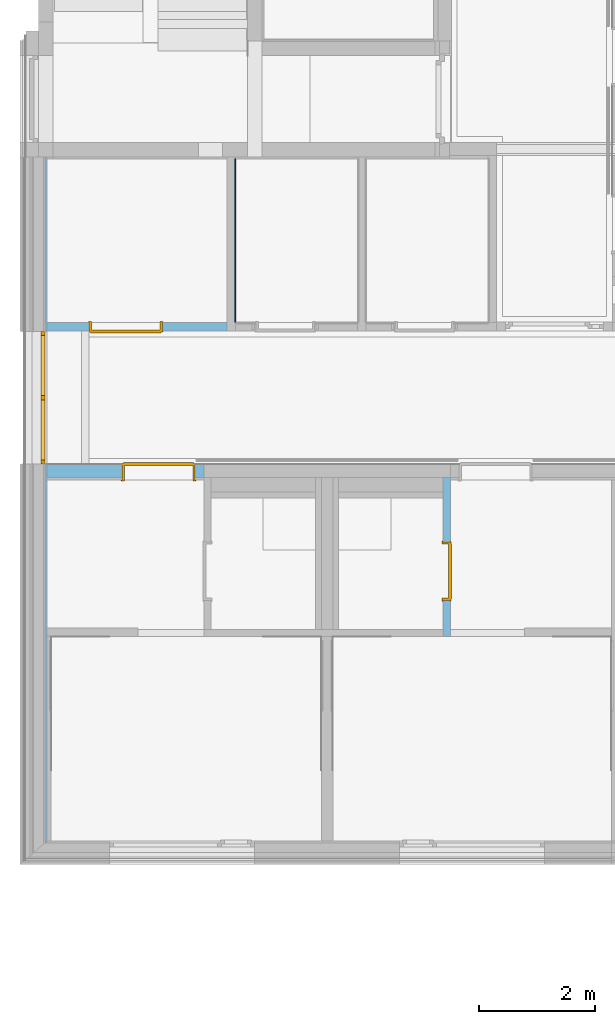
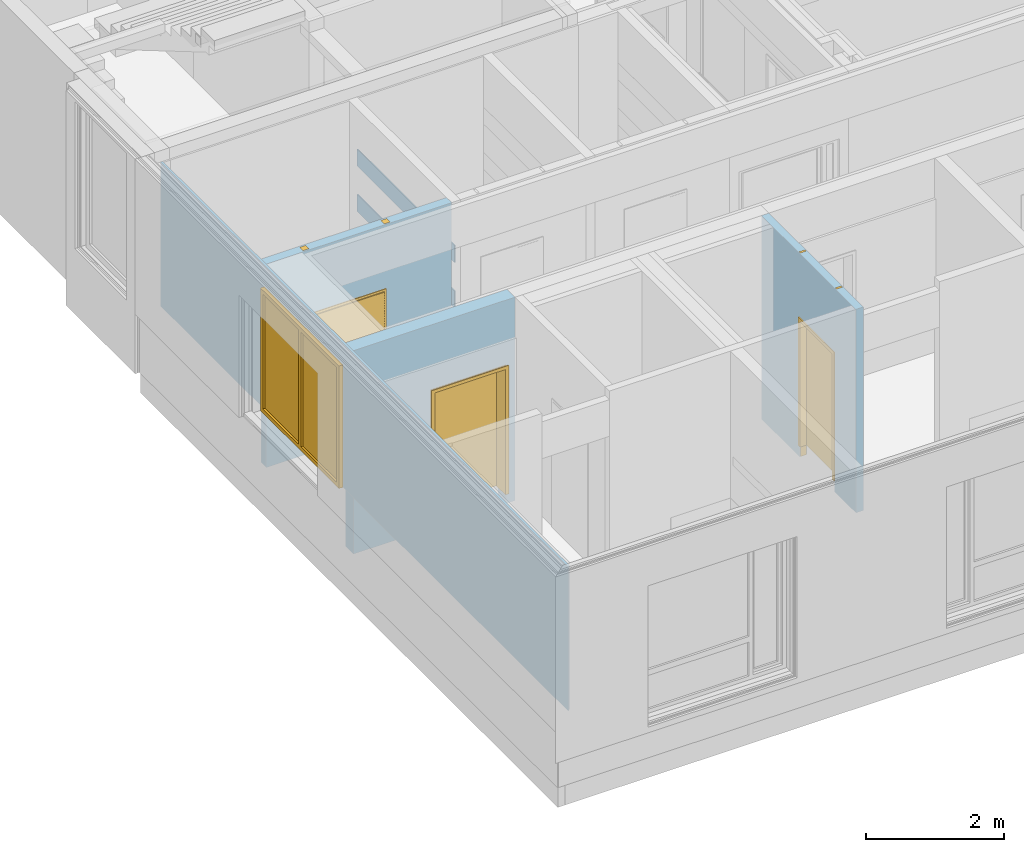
# One storey, part 68 of 207: 3 doors, 2 walls, 1 window, 4 openings, plus 4 elements that do not belong to this part.
"""IFC4 building model written with IfcOpenShell, lengths in metres."""

from ifc_helpers import new_model, entity, si_unit, converted_unit, derived_unit, frame, frame_2d, origin, origin_with_axes, place, context, subcontext, project, spatial, polyline, rectangle, outline, extrude, closed_shell, open_shell, faceted_brep, surface_model, source, transform, mapped, material, type_object, element, fill, save


model = new_model("IFC4")

# Units and contexts
model_context = context("Model", 3, precision=1e-05, world=origin())
body_context = subcontext(model_context, "Body", "Model", "MODEL_VIEW")
ifc_project = project(units=[si_unit("LENGTHUNIT", "METRE"), si_unit("AREAUNIT", "SQUARE_METRE"), si_unit("VOLUMEUNIT", "CUBIC_METRE"), si_unit("MASSUNIT", "GRAM", prefix="KILO"), converted_unit("PLANEANGLEUNIT", "DEGREE", entity("IfcPlaneAngleMeasure", 0.0174532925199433), si_unit("PLANEANGLEUNIT", "RADIAN"), dimensions=[0, 0, 0, 0, 0, 0, 0]), derived_unit("THERMALTRANSMITTANCEUNIT", [(si_unit("POWERUNIT", "WATT"), 1), (si_unit("THERMODYNAMICTEMPERATUREUNIT", "KELVIN"), -1), (si_unit("LENGTHUNIT", "METRE"), -2)]), derived_unit("VOLUMETRICFLOWRATEUNIT", [(si_unit("LENGTHUNIT", "METRE"), 3), (converted_unit("TIMEUNIT", "hour", entity("IfcTimeMeasure", 3600.0), si_unit("TIMEUNIT", "SECOND"), dimensions=[0, 0, 1, 0, 0, 0, 0]), -1), (si_unit("LENGTHUNIT", "METRE"), -1)])], contexts=[model_context])

# Site, building, storey
site_placement = place(None, origin())
site = spatial("IfcSite", under=ifc_project, at=site_placement, Name="Psychiatrie Neubau Wunstorf", CompositionType="ELEMENT")
building_placement = place(site_placement, origin())
building = spatial("IfcBuilding", under=site, at=building_placement, Name="Neubau H2 Stationsgebäude", CompositionType="ELEMENT")
storey_placement = place(building_placement, frame((0.0, 0.0, -0.2)))
storey = spatial("IfcBuildingStorey", under=building, at=storey_placement, Name="H2 Ebene 0", CompositionType="ELEMENT", Elevation=-0.2)

# Wall, opening, window
ifc_material_1 = material(Name="WA-LB")
wall_1_placement = place(storey_placement, frame((0.169999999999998, -2.16399999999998, 1.05), z_axis=(0.0, 0.0, 1.0), x_axis=(1.80815016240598e-16, 1.0, 0.0)))
wall_1 = element("IfcWall", 1, at=wall_1_placement, inside=storey, material=ifc_material_1, context=body_context, shape_type="SweptSolid", body=[
    extrude(outline(polyline([(0.0313246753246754, -0.0360000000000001), (11.8203245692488, -0.0360000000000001), (11.8203245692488, 0.0), (0.0, 0.0), (0.0313246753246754, -0.0360000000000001)])), frame((-0.0313246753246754, 0.0360000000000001, 0.0), z_axis=(0.0, 0.0, 1.0), x_axis=(1.0, 0.0, 0.0)), (0.0, 0.0, 1.0), 2.55),
])
opening_1_placement = place(wall_1_placement, frame((8.78187476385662, 0.0360000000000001, 0.0), z_axis=(0.0, -1.0, 0.0), x_axis=(0.0, 0.0, 1.0)))
opening_1 = element("IfcOpeningElement", 2, at=opening_1_placement, cuts=wall_1, Name="Fensteröffnung", ObjectType="Opening", context=body_context, shape_type="SweptSolid", body=[
    extrude(outline(polyline([(2.17, 2.28), (2.17, 0.0), (0.0, 0.0), (0.0, 2.28), (2.17, 2.28)])), origin_with_axes(), (0.0, 0.0, 1.0), 0.0360000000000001),
])
shared_shape_1 = source(origin_with_axes(), body_context, "Body", "SurfaceModel", [
    surface_model("IfcShellBasedSurfaceModel", [(0.0, 0.0, 2.17), (0.0699999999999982, 0.0, 2.17), (0.0699999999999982, 0.0, 0.0), (0.0, 0.0, 0.0), (0.0, 0.0699999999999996, 0.0), (0.0699999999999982, 0.0699999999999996, 0.0), (0.0699999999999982, 0.0699999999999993, 2.17), (0.0, 0.0699999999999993, 2.17)], [closed_shell([[[0, 1, 2, 3]], [[4, 5, 6, 7]], [[3, 4, 7, 0]], [[2, 5, 4, 3]], [[1, 6, 5, 2]], [[0, 7, 6, 1]]], orient=[[False], [False], [False], [False], [False], [False]])]),
    surface_model("IfcShellBasedSurfaceModel", [(2.21, 0.0, 2.17), (2.28, 0.0, 2.17), (2.28, 0.0, 0.0), (2.21, 0.0, 0.0), (2.21, 0.0700000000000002, 0.0), (2.28, 0.0700000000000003, 0.0), (2.28, 0.07, 2.17), (2.21, 0.07, 2.17)], [closed_shell([[[0, 1, 2, 3]], [[4, 5, 6, 7]], [[3, 4, 7, 0]], [[2, 5, 4, 3]], [[1, 6, 5, 2]], [[0, 7, 6, 1]]], orient=[[False], [False], [False], [False], [False], [False]])]),
    surface_model("IfcShellBasedSurfaceModel", [(0.0699999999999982, 0.0, 0.07), (2.21, 0.0, 0.07), (2.21, 0.0, 0.0), (0.0699999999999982, 0.0, 0.0), (0.0699999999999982, 0.0699999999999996, 0.0), (2.21, 0.0700000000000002, 0.0), (2.21, 0.0700000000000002, 0.07), (0.0699999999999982, 0.0699999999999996, 0.07)], [closed_shell([[[0, 1, 2, 3]], [[4, 5, 6, 7]], [[3, 4, 7, 0]], [[2, 5, 4, 3]], [[1, 6, 5, 2]], [[0, 7, 6, 1]]], orient=[[False], [False], [False], [False], [False], [False]])]),
    surface_model("IfcShellBasedSurfaceModel", [(0.0699999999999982, 0.0, 2.17), (2.21, 0.0, 2.17), (2.21, 0.0, 2.1), (0.0699999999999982, 0.0, 2.1), (0.0699999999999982, 0.0699999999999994, 2.1), (2.21, 0.07, 2.1), (2.21, 0.07, 2.17), (0.0699999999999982, 0.0699999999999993, 2.17)], [closed_shell([[[0, 1, 2, 3]], [[4, 5, 6, 7]], [[3, 4, 7, 0]], [[2, 5, 4, 3]], [[1, 6, 5, 2]], [[0, 7, 6, 1]]], orient=[[False], [False], [False], [False], [False], [False]])]),
    surface_model("IfcShellBasedSurfaceModel", [(1.105, 0.0, 2.1), (1.175, 0.0, 2.1), (1.175, 0.0, 0.07), (1.105, 0.0, 0.07), (1.105, 0.0699999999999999, 0.07), (1.175, 0.0699999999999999, 0.07), (1.175, 0.0699999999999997, 2.1), (1.105, 0.0699999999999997, 2.1)], [closed_shell([[[0, 1, 2, 3]], [[4, 5, 6, 7]], [[3, 4, 7, 0]], [[2, 5, 4, 3]], [[1, 6, 5, 2]], [[0, 7, 6, 1]]], orient=[[False], [False], [False], [False], [False], [False]])]),
    surface_model("IfcShellBasedSurfaceModel", [(0.0699999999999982, 0.0349999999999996, 0.07), (0.0699999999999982, 0.0349999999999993, 2.1), (1.105, 0.0349999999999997, 2.1), (1.105, 0.0349999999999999, 0.07)], [open_shell([[[0, 1, 2, 3]]], orient=[[False]])]),
    surface_model("IfcShellBasedSurfaceModel", [(1.175, 0.0349999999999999, 0.07), (1.175, 0.0349999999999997, 2.1), (2.21, 0.035, 2.1), (2.21, 0.0350000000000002, 0.07)], [open_shell([[[0, 1, 2, 3]]], orient=[[False]])]),
])
window_placement = place(opening_1_placement, frame((0.0, 2.28, 0.00400000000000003), z_axis=(1.0, 0.0, 0.0), x_axis=(0.0, -1.0, -6.29574780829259e-18)))
window = element("IfcWindow", 3, at=window_placement, inside=storey, Name="Fenster", OverallHeight=2.17, OverallWidth=2.28, PartitioningType="USERDEFINED", PredefinedType="WINDOW", context=body_context, shape_type="MappedRepresentation", body=[
    mapped(shared_shape_1, transform((0.0, 0.0, 0.0), x_axis=(1.0, 0.0, 0.0), y_axis=(0.0, 1.0, 0.0), z_axis=(0.0, 0.0, 1.0), scale=1.0)),
])
fill(opening_1, window)

# Walls
wall_2_placement = place(storey_placement, frame((3.407, 6.77500025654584, 1.6)))
element("IfcWall", 4, at=wall_2_placement, inside=storey, Name="WV 1.1", context=body_context, shape_type="Brep", body=[
    faceted_brep([(0.0, 0.0, 0.0), (0.018, 0.0, 0.0), (0.0180000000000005, 2.82, 0.0), (0.0, 2.82, 0.0), (0.018, 0.0, 0.3), (0.0, 0.0, 0.3), (0.0, 2.82, 0.3), (0.0180000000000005, 2.82, 0.3)], [[[0, 1, 2, 3]], [[4, 5, 6, 7]], [[1, 0, 5, 4]], [[2, 1, 4, 7]], [[3, 2, 7, 6]], [[0, 3, 6, 5]]], orient=[[False], [False], [False], [False], [False], [False]]),
])
wall_3_placement = place(storey_placement, frame((3.407, 6.77500025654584, 2.4)))
element("IfcWall", 5, at=wall_3_placement, inside=storey, Name="WV 1.1", context=body_context, shape_type="Brep", body=[
    faceted_brep([(0.0, 0.0, 0.0), (0.0179999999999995, 0.0, 0.0), (0.018, 2.82, 0.0), (0.0, 2.82, 0.0), (0.0179999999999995, 0.0, 0.3), (0.0, 0.0, 0.3), (0.0, 2.82, 0.3), (0.018, 2.82, 0.3)], [[[0, 1, 2, 3]], [[4, 5, 6, 7]], [[1, 0, 5, 4]], [[2, 1, 4, 7]], [[3, 2, 7, 6]], [[0, 3, 6, 5]]], orient=[[False], [False], [False], [False], [False], [False]]),
])

# Wall, opening, door
ifc_material_2 = material(Name="WI-LB")
wall_4_placement = place(storey_placement, frame((3.275, 6.77499989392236, 0.0), z_axis=(0.0, 0.0, 1.0), x_axis=(-1.0, 0.0, 0.0)))
wall_4 = element("IfcWall", 6, at=wall_4_placement, inside=storey, material=ifc_material_2, context=body_context, shape_type="SweptSolid", body=[
    extrude(rectangle(XDim=3.106, YDim=0.15, at=frame_2d((1.553, 0.075), x_axis=(1.0, 0.0))), origin_with_axes(), (0.0, 0.0, 1.0), 3.6),
])
opening_2_placement = place(wall_4_placement, frame((1.115, 0.0, 0.0), z_axis=(0.0, 1.0, 0.0), x_axis=(0.0, 0.0, 1.0)))
opening_2 = element("IfcOpeningElement", 7, at=opening_2_placement, cuts=wall_4, Name="Türöffnung", ObjectType="Opening", context=body_context, shape_type="SweptSolid", body=[
    extrude(outline(polyline([(2.46, 1.26), (2.46, 0.0), (0.0, 0.0), (0.0, 1.26), (2.46, 1.26)])), origin_with_axes(), (0.0, 0.0, 1.0), 0.15),
])
ifc_material_3 = material(Name="TI-2F-UZ-D")
door_type_1 = type_object("IfcDoorType", Name="SMT", OperationType="DOUBLE_DOOR_SINGLE_SWING", ParameterTakesPrecedence=False, PredefinedType="DOOR")
shared_shape_2 = source(origin_with_axes(), body_context, "Body", "Brep", [
    faceted_brep([(1.36, 0.025, 0.0), (1.36, 0.125, 0.0), (1.26, 0.125, 0.0), (1.26, 0.025, 0.0), (1.36, 0.125, 3.6), (1.36, 0.025, 3.6), (1.26, 0.025, 3.6), (1.26, 0.125, 3.6)], [[[0, 1, 2, 3]], [[4, 5, 6, 7]], [[1, 0, 5, 4]], [[2, 1, 4, 7]], [[3, 2, 7, 6]], [[0, 3, 6, 5]]], orient=[[False], [False], [False], [False], [False], [False]]),
    faceted_brep([(0.0, 0.025, 0.0), (0.0, 0.125, 0.0), (-0.1, 0.125, 0.0), (-0.1, 0.025, 0.0), (0.0, 0.125, 3.6), (0.0, 0.025, 3.6), (-0.1, 0.025, 3.6), (-0.1, 0.125, 3.6)], [[[0, 1, 2, 3]], [[4, 5, 6, 7]], [[1, 0, 5, 4]], [[2, 1, 4, 7]], [[3, 2, 7, 6]], [[0, 3, 6, 5]]], orient=[[False], [False], [False], [False], [False], [False]]),
    faceted_brep([(1.26, 0.025, 2.46), (1.26, 0.125, 2.46), (0.0, 0.125, 2.46), (0.0, 0.025, 2.46), (1.26, 0.125, 2.56), (1.26, 0.025, 2.56), (0.0, 0.025, 2.56), (0.0, 0.125, 2.56)], [[[0, 1, 2, 3]], [[4, 5, 6, 7]], [[1, 0, 5, 4]], [[2, 1, 4, 7]], [[3, 2, 7, 6]], [[0, 3, 6, 5]]], orient=[[False], [False], [False], [False], [False], [False]]),
])
shared_shape_3 = source(origin_with_axes(), body_context, "Body", "Brep", [
    faceted_brep([(1.26, -0.015, 2.46), (1.26, -0.015, 0.2), (1.22, -0.015, 0.2), (1.22, -0.015, 2.46), (1.26, 0.165, 0.2), (1.26, 0.165, 2.46), (1.22, 0.165, 2.46), (1.22, 0.165, 0.2)], [[[0, 1, 2, 3]], [[4, 5, 6, 7]], [[1, 0, 5, 4]], [[2, 1, 4, 7]], [[3, 2, 7, 6]], [[0, 3, 6, 5]]], orient=[[False], [False], [False], [False], [False], [False]]),
    faceted_brep([(1.26, -0.015, 2.475), (1.275, -0.015, 2.475), (1.275, -0.015, 0.2), (1.26, -0.015, 0.2), (1.26, 0.0, 0.2), (1.275, 0.0, 0.2), (1.275, 0.0, 2.475), (1.26, 0.0, 2.475)], [[[0, 1, 2, 3]], [[4, 5, 6, 7]], [[3, 4, 7, 0]], [[2, 5, 4, 3]], [[1, 6, 5, 2]], [[0, 7, 6, 1]]], orient=[[False], [False], [False], [False], [False], [False]]),
    faceted_brep([(1.26, 0.15, 2.475), (1.275, 0.15, 2.475), (1.275, 0.15, 0.2), (1.26, 0.15, 0.2), (1.26, 0.165, 0.2), (1.275, 0.165, 0.2), (1.275, 0.165, 2.475), (1.26, 0.165, 2.475)], [[[0, 1, 2, 3]], [[4, 5, 6, 7]], [[3, 4, 7, 0]], [[2, 5, 4, 3]], [[1, 6, 5, 2]], [[0, 7, 6, 1]]], orient=[[False], [False], [False], [False], [False], [False]]),
    faceted_brep([(0.04, -0.015, 2.46), (0.04, -0.015, 0.2), (0.0, -0.015, 0.2), (0.0, -0.015, 2.46), (0.04, 0.165, 0.2), (0.04, 0.165, 2.46), (0.0, 0.165, 2.46), (0.0, 0.165, 0.2)], [[[0, 1, 2, 3]], [[4, 5, 6, 7]], [[1, 0, 5, 4]], [[2, 1, 4, 7]], [[3, 2, 7, 6]], [[0, 3, 6, 5]]], orient=[[False], [False], [False], [False], [False], [False]]),
    faceted_brep([(0.0, -0.015, 2.475), (0.0, -0.015, 0.2), (-0.015, -0.015, 0.2), (-0.015, -0.015, 2.475), (0.0, 0.0, 0.2), (0.0, 0.0, 2.475), (-0.015, 0.0, 2.475), (-0.015, 0.0, 0.2)], [[[0, 1, 2, 3]], [[4, 5, 6, 7]], [[1, 0, 5, 4]], [[2, 1, 4, 7]], [[3, 2, 7, 6]], [[0, 3, 6, 5]]], orient=[[False], [False], [False], [False], [False], [False]]),
    faceted_brep([(0.0, 0.15, 2.475), (0.0, 0.15, 0.2), (-0.015, 0.15, 0.2), (-0.015, 0.15, 2.475), (0.0, 0.165, 0.2), (0.0, 0.165, 2.475), (-0.015, 0.165, 2.475), (-0.015, 0.165, 0.2)], [[[0, 1, 2, 3]], [[4, 5, 6, 7]], [[1, 0, 5, 4]], [[2, 1, 4, 7]], [[3, 2, 7, 6]], [[0, 3, 6, 5]]], orient=[[False], [False], [False], [False], [False], [False]]),
    faceted_brep([(1.22, -0.015, 2.46), (1.22, -0.015, 2.42), (0.04, -0.015, 2.42), (0.04, -0.015, 2.46), (1.22, 0.165, 2.42), (1.22, 0.165, 2.46), (0.04, 0.165, 2.46), (0.04, 0.165, 2.42)], [[[0, 1, 2, 3]], [[4, 5, 6, 7]], [[1, 0, 5, 4]], [[2, 1, 4, 7]], [[3, 2, 7, 6]], [[0, 3, 6, 5]]], orient=[[False], [False], [False], [False], [False], [False]]),
    faceted_brep([(1.26, -0.015, 2.475), (1.26, -0.015, 2.46), (0.0, -0.015, 2.46), (0.0, -0.015, 2.475), (1.26, 0.0, 2.46), (1.26, 0.0, 2.475), (0.0, 0.0, 2.475), (0.0, 0.0, 2.46)], [[[0, 1, 2, 3]], [[4, 5, 6, 7]], [[1, 0, 5, 4]], [[2, 1, 4, 7]], [[3, 2, 7, 6]], [[0, 3, 6, 5]]], orient=[[False], [False], [False], [False], [False], [False]]),
    faceted_brep([(1.26, 0.15, 2.475), (1.26, 0.15, 2.46), (0.0, 0.15, 2.46), (0.0, 0.15, 2.475), (1.26, 0.165, 2.46), (1.26, 0.165, 2.475), (0.0, 0.165, 2.475), (0.0, 0.165, 2.46)], [[[0, 1, 2, 3]], [[4, 5, 6, 7]], [[1, 0, 5, 4]], [[2, 1, 4, 7]], [[3, 2, 7, 6]], [[0, 3, 6, 5]]], orient=[[False], [False], [False], [False], [False], [False]]),
    faceted_brep([(1.235, 0.13, 2.435), (1.235, 0.13, 0.2), (0.335, 0.13, 0.2), (0.335, 0.13, 2.435), (1.235, 0.18, 0.2), (1.235, 0.18, 2.435), (0.335, 0.18, 2.435), (0.335, 0.18, 0.2)], [[[0, 1, 2, 3]], [[4, 5, 6, 7]], [[1, 0, 5, 4]], [[2, 1, 4, 7]], [[3, 2, 7, 6]], [[0, 3, 6, 5]]], orient=[[False], [False], [False], [False], [False], [False]]),
    faceted_brep([(0.334, 0.13, 2.435), (0.334, 0.13, 0.2), (0.025, 0.13, 0.2), (0.025, 0.13, 2.435), (0.334, 0.18, 0.2), (0.334, 0.18, 2.435), (0.025, 0.18, 2.435), (0.025, 0.18, 0.2)], [[[0, 1, 2, 3]], [[4, 5, 6, 7]], [[1, 0, 5, 4]], [[2, 1, 4, 7]], [[3, 2, 7, 6]], [[0, 3, 6, 5]]], orient=[[False], [False], [False], [False], [False], [False]]),
])
door_1_placement = place(opening_2_placement, frame((0.0, 0.0, 0.0), z_axis=(1.0, 0.0, 0.0), x_axis=(0.0, 1.0, 0.0)))
door_1 = element("IfcDoor", 8, at=door_1_placement, inside=storey, type_object=door_type_1, material=ifc_material_3, Name="SMT", OverallHeight=2.46, OverallWidth=1.26, context=body_context, shape_type="MappedRepresentation", body=[
    mapped(shared_shape_2, transform((0.0, 0.0, 0.0), x_axis=(1.0, 0.0, 0.0), y_axis=(0.0, 1.0, 0.0), z_axis=(0.0, 0.0, 1.0), scale=1.0)),
    mapped(shared_shape_3, transform((0.0, 0.0, 0.0), x_axis=(1.0, 0.0, 0.0), y_axis=(0.0, 1.0, 0.0), z_axis=(0.0, 0.0, 1.0), scale=1.0)),
])
fill(opening_2, door_1)

ifc_material_4 = material(Name="WI-HW 60")
wall_5_placement = place(storey_placement, frame((2.875, 4.33074963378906, 0.0), z_axis=(0.0, 0.0, 1.0), x_axis=(-1.0, 0.0, 0.0)))
wall_5 = element("IfcWall", 9, at=wall_5_placement, inside=storey, material=ifc_material_4, context=body_context, shape_type="SweptSolid", body=[
    extrude(rectangle(XDim=2.706, YDim=0.232000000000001, at=frame_2d((1.353, 0.116), x_axis=(1.0, 0.0))), origin_with_axes(), (0.0, 0.0, 1.0), 3.6),
])
opening_3_placement = place(wall_5_placement, frame((0.150000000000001, 0.0, 0.0), z_axis=(0.0, 1.0, 0.0), x_axis=(0.0, 0.0, 1.0)))
opening_3 = element("IfcOpeningElement", 10, at=opening_3_placement, cuts=wall_5, Name="Türöffnung", ObjectType="Opening", context=body_context, shape_type="SweptSolid", body=[
    extrude(outline(polyline([(2.46, 1.26), (2.46, 0.0), (0.0, 0.0), (0.0, 1.26), (2.46, 1.26)])), origin_with_axes(), (0.0, 0.0, 1.0), 0.232000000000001),
])
ifc_material_5 = material(Name="TI-2F-UZ-D")
door_type_2 = type_object("IfcDoorType", Name="SMT", OperationType="DOUBLE_DOOR_SINGLE_SWING", ParameterTakesPrecedence=False, PredefinedType="DOOR")
shared_shape_4 = source(origin_with_axes(), body_context, "Body", "Brep", [
    faceted_brep([(0.0, -0.0150000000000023, 2.46), (0.04, -0.0150000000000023, 2.46), (0.04, -0.0150000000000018, 0.2), (0.0, -0.0150000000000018, 0.2), (0.0, 0.286499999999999, 0.2), (0.04, 0.286499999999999, 0.2), (0.04, 0.286499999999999, 2.46), (0.0, 0.286499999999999, 2.46)], [[[0, 1, 2, 3]], [[4, 5, 6, 7]], [[3, 4, 7, 0]], [[2, 5, 4, 3]], [[1, 6, 5, 2]], [[0, 7, 6, 1]]], orient=[[False], [False], [False], [False], [False], [False]]),
    faceted_brep([(0.0, -0.0150000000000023, 2.475), (0.0, -0.0150000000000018, 0.2), (-0.015, -0.0150000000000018, 0.2), (-0.015, -0.0150000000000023, 2.475), (0.0, 0.0, 0.2), (0.0, 0.0, 2.475), (-0.015, 0.0, 2.475), (-0.015, 0.0, 0.2)], [[[0, 1, 2, 3]], [[4, 5, 6, 7]], [[1, 0, 5, 4]], [[2, 1, 4, 7]], [[3, 2, 7, 6]], [[0, 3, 6, 5]]], orient=[[False], [False], [False], [False], [False], [False]]),
    faceted_brep([(0.0, 0.271499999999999, 2.475), (0.0, 0.271499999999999, 0.2), (-0.015, 0.271499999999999, 0.2), (-0.015, 0.271499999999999, 2.475), (0.0, 0.286499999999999, 0.2), (0.0, 0.286499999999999, 2.475), (-0.015, 0.286499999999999, 2.475), (-0.015, 0.286499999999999, 0.2)], [[[0, 1, 2, 3]], [[4, 5, 6, 7]], [[1, 0, 5, 4]], [[2, 1, 4, 7]], [[3, 2, 7, 6]], [[0, 3, 6, 5]]], orient=[[False], [False], [False], [False], [False], [False]]),
    faceted_brep([(1.22, -0.0150000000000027, 2.46), (1.26, -0.0150000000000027, 2.46), (1.26, -0.0150000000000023, 0.2), (1.22, -0.0150000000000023, 0.2), (1.22, 0.286499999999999, 0.2), (1.26, 0.286499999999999, 0.2), (1.26, 0.286499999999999, 2.46), (1.22, 0.286499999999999, 2.46)], [[[0, 1, 2, 3]], [[4, 5, 6, 7]], [[3, 4, 7, 0]], [[2, 5, 4, 3]], [[1, 6, 5, 2]], [[0, 7, 6, 1]]], orient=[[False], [False], [False], [False], [False], [False]]),
    faceted_brep([(1.26, -0.0150000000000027, 2.475), (1.275, -0.0150000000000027, 2.475), (1.275, -0.0150000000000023, 0.2), (1.26, -0.0150000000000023, 0.2), (1.26, 0.0, 0.2), (1.275, 0.0, 0.2), (1.275, 0.0, 2.475), (1.26, 0.0, 2.475)], [[[0, 1, 2, 3]], [[4, 5, 6, 7]], [[3, 4, 7, 0]], [[2, 5, 4, 3]], [[1, 6, 5, 2]], [[0, 7, 6, 1]]], orient=[[False], [False], [False], [False], [False], [False]]),
    faceted_brep([(1.26, 0.271499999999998, 2.475), (1.275, 0.271499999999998, 2.475), (1.275, 0.271499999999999, 0.2), (1.26, 0.271499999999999, 0.2), (1.26, 0.286499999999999, 0.2), (1.275, 0.286499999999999, 0.2), (1.275, 0.286499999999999, 2.475), (1.26, 0.286499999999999, 2.475)], [[[0, 1, 2, 3]], [[4, 5, 6, 7]], [[3, 4, 7, 0]], [[2, 5, 4, 3]], [[1, 6, 5, 2]], [[0, 7, 6, 1]]], orient=[[False], [False], [False], [False], [False], [False]]),
    faceted_brep([(0.04, -0.0150000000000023, 2.46), (1.22, -0.0150000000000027, 2.46), (1.22, -0.0150000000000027, 2.42), (0.04, -0.0150000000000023, 2.42), (0.04, 0.286499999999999, 2.42), (1.22, 0.286499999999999, 2.42), (1.22, 0.286499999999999, 2.46), (0.04, 0.286499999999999, 2.46)], [[[0, 1, 2, 3]], [[4, 5, 6, 7]], [[3, 4, 7, 0]], [[2, 5, 4, 3]], [[1, 6, 5, 2]], [[0, 7, 6, 1]]], orient=[[False], [False], [False], [False], [False], [False]]),
    faceted_brep([(0.0, -0.0150000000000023, 2.475), (1.26, -0.0150000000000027, 2.475), (1.26, -0.0150000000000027, 2.46), (0.0, -0.0150000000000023, 2.46), (0.0, 0.0, 2.46), (1.26, 0.0, 2.46), (1.26, 0.0, 2.475), (0.0, 0.0, 2.475)], [[[0, 1, 2, 3]], [[4, 5, 6, 7]], [[3, 4, 7, 0]], [[2, 5, 4, 3]], [[1, 6, 5, 2]], [[0, 7, 6, 1]]], orient=[[False], [False], [False], [False], [False], [False]]),
    faceted_brep([(0.0, 0.271499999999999, 2.475), (1.26, 0.271499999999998, 2.475), (1.26, 0.271499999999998, 2.46), (0.0, 0.271499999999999, 2.46), (0.0, 0.286499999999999, 2.46), (1.26, 0.286499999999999, 2.46), (1.26, 0.286499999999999, 2.475), (0.0, 0.286499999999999, 2.475)], [[[0, 1, 2, 3]], [[4, 5, 6, 7]], [[3, 4, 7, 0]], [[2, 5, 4, 3]], [[1, 6, 5, 2]], [[0, 7, 6, 1]]], orient=[[False], [False], [False], [False], [False], [False]]),
    faceted_brep([(0.025, 0.251499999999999, 2.435), (0.925, 0.251499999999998, 2.435), (0.925, 0.251499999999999, 0.2), (0.025, 0.251499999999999, 0.2), (0.025, 0.301499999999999, 0.2), (0.925, 0.301499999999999, 0.2), (0.925, 0.301499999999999, 2.435), (0.025, 0.301499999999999, 2.435)], [[[0, 1, 2, 3]], [[4, 5, 6, 7]], [[3, 4, 7, 0]], [[2, 5, 4, 3]], [[1, 6, 5, 2]], [[0, 7, 6, 1]]], orient=[[False], [False], [False], [False], [False], [False]]),
    faceted_brep([(0.926, 0.251499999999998, 2.435), (1.235, 0.251499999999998, 2.435), (1.235, 0.251499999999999, 0.2), (0.926, 0.251499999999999, 0.2), (0.926, 0.301499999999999, 0.2), (1.235, 0.301499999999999, 0.2), (1.235, 0.301499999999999, 2.435), (0.926, 0.301499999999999, 2.435)], [[[0, 1, 2, 3]], [[4, 5, 6, 7]], [[3, 4, 7, 0]], [[2, 5, 4, 3]], [[1, 6, 5, 2]], [[0, 7, 6, 1]]], orient=[[False], [False], [False], [False], [False], [False]]),
])
door_2_placement = place(opening_3_placement, frame((0.0, 1.26, 0.271499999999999), z_axis=(1.0, 0.0, 0.0), x_axis=(0.0, -1.0, 0.0)))
door_2 = element("IfcDoor", 11, at=door_2_placement, inside=storey, type_object=door_type_2, material=ifc_material_5, Name="SMT", OverallHeight=2.46, OverallWidth=1.26, context=body_context, shape_type="MappedRepresentation", body=[
    mapped(shared_shape_4, transform((0.0, 0.0, 0.0), x_axis=(1.0, 0.0, 0.0), y_axis=(0.0, 1.0, 0.0), z_axis=(0.0, 0.0, 1.0), scale=1.0)),
])
fill(opening_3, door_2)

ifc_material_6 = material(Name="WI-LB")
wall_6_placement = place(storey_placement, frame((7.0, 4.09874963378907, 0.0), z_axis=(0.0, 0.0, 1.0), x_axis=(0.0, -1.0, 0.0)))
wall_6 = element("IfcWall", 12, at=wall_6_placement, inside=storey, material=ifc_material_6, context=body_context, shape_type="SweptSolid", body=[
    extrude(rectangle(XDim=2.74, YDim=0.125, at=frame_2d((1.37, 0.0625), x_axis=(1.0, 0.0))), origin_with_axes(), (0.0, 0.0, 1.0), 3.6),
])
opening_4_placement = place(wall_6_placement, frame((1.105, 0.0, 0.0), z_axis=(0.0, 1.0, 0.0), x_axis=(0.0, 0.0, 1.0)))
opening_4 = element("IfcOpeningElement", 13, at=opening_4_placement, cuts=wall_6, Name="Türöffnung", ObjectType="Opening", context=body_context, shape_type="SweptSolid", body=[
    extrude(outline(polyline([(2.46, 1.01), (2.46, 0.0), (0.0, 0.0), (0.0, 1.01), (2.46, 1.01)])), origin_with_axes(), (0.0, 0.0, 1.0), 0.125),
])
ifc_material_7 = material(Name="TI-1F-UZ-D-N")
door_type_3 = type_object("IfcDoorType", Name="SMT", OperationType="SINGLE_SWING_RIGHT", ParameterTakesPrecedence=False, PredefinedType="DOOR")
shared_shape_5 = source(origin_with_axes(), body_context, "Body", "Brep", [
    faceted_brep([(1.05, 0.0124999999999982, 0.0), (1.05, 0.112499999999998, 0.0), (1.01, 0.112499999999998, 0.0), (1.01, 0.0124999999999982, 0.0), (1.05, 0.112499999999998, 3.6), (1.05, 0.0124999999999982, 3.6), (1.01, 0.0124999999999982, 3.6), (1.01, 0.112499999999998, 3.6)], [[[0, 1, 2, 3]], [[4, 5, 6, 7]], [[1, 0, 5, 4]], [[2, 1, 4, 7]], [[3, 2, 7, 6]], [[0, 3, 6, 5]]], orient=[[False], [False], [False], [False], [False], [False]]),
    faceted_brep([(0.0, 0.0124999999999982, 0.0), (0.0, 0.112499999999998, 0.0), (-0.0399999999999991, 0.112499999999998, 0.0), (-0.0399999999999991, 0.0124999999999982, 0.0), (0.0, 0.112499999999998, 3.6), (0.0, 0.0124999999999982, 3.6), (-0.0399999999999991, 0.0124999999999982, 3.6), (-0.0399999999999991, 0.112499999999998, 3.6)], [[[0, 1, 2, 3]], [[4, 5, 6, 7]], [[1, 0, 5, 4]], [[2, 1, 4, 7]], [[3, 2, 7, 6]], [[0, 3, 6, 5]]], orient=[[False], [False], [False], [False], [False], [False]]),
    faceted_brep([(1.01, 0.0124999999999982, 2.46), (1.01, 0.112499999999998, 2.46), (0.0, 0.112499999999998, 2.46), (0.0, 0.0124999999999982, 2.46), (1.01, 0.112499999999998, 2.5), (1.01, 0.0124999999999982, 2.5), (0.0, 0.0124999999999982, 2.5), (0.0, 0.112499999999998, 2.5)], [[[0, 1, 2, 3]], [[4, 5, 6, 7]], [[1, 0, 5, 4]], [[2, 1, 4, 7]], [[3, 2, 7, 6]], [[0, 3, 6, 5]]], orient=[[False], [False], [False], [False], [False], [False]]),
])
shared_shape_6 = source(origin_with_axes(), body_context, "Body", "Brep", [
    faceted_brep([(0.0, -0.0150000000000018, 2.46), (0.0400000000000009, -0.0150000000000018, 2.46), (0.0400000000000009, -0.0150000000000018, 0.2), (0.0, -0.0150000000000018, 0.2), (0.0, 0.139999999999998, 0.2), (0.0400000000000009, 0.139999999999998, 0.2), (0.0400000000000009, 0.139999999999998, 2.46), (0.0, 0.139999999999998, 2.46)], [[[0, 1, 2, 3]], [[4, 5, 6, 7]], [[3, 4, 7, 0]], [[2, 5, 4, 3]], [[1, 6, 5, 2]], [[0, 7, 6, 1]]], orient=[[False], [False], [False], [False], [False], [False]]),
    faceted_brep([(0.0, -0.0150000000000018, 2.475), (0.0, -0.0150000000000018, 0.2), (-0.0149999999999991, -0.0150000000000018, 0.2), (-0.0149999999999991, -0.0150000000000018, 2.475), (0.0, 0.0, 0.2), (0.0, 0.0, 2.475), (-0.0149999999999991, 0.0, 2.475), (-0.0149999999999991, 0.0, 0.2)], [[[0, 1, 2, 3]], [[4, 5, 6, 7]], [[1, 0, 5, 4]], [[2, 1, 4, 7]], [[3, 2, 7, 6]], [[0, 3, 6, 5]]], orient=[[False], [False], [False], [False], [False], [False]]),
    faceted_brep([(0.0, 0.124999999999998, 2.475), (0.0, 0.124999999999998, 0.2), (-0.0149999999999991, 0.124999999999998, 0.2), (-0.0149999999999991, 0.124999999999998, 2.475), (0.0, 0.139999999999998, 0.2), (0.0, 0.139999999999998, 2.475), (-0.0149999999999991, 0.139999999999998, 2.475), (-0.0149999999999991, 0.139999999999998, 0.2)], [[[0, 1, 2, 3]], [[4, 5, 6, 7]], [[1, 0, 5, 4]], [[2, 1, 4, 7]], [[3, 2, 7, 6]], [[0, 3, 6, 5]]], orient=[[False], [False], [False], [False], [False], [False]]),
    faceted_brep([(0.970000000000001, -0.0150000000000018, 2.46), (1.01, -0.0150000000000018, 2.46), (1.01, -0.0150000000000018, 0.2), (0.970000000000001, -0.0150000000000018, 0.2), (0.970000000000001, 0.139999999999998, 0.2), (1.01, 0.139999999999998, 0.2), (1.01, 0.139999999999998, 2.46), (0.970000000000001, 0.139999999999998, 2.46)], [[[0, 1, 2, 3]], [[4, 5, 6, 7]], [[3, 4, 7, 0]], [[2, 5, 4, 3]], [[1, 6, 5, 2]], [[0, 7, 6, 1]]], orient=[[False], [False], [False], [False], [False], [False]]),
    faceted_brep([(1.01, -0.0150000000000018, 2.475), (1.025, -0.0150000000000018, 2.475), (1.025, -0.0150000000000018, 0.2), (1.01, -0.0150000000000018, 0.2), (1.01, 0.0, 0.2), (1.025, 0.0, 0.2), (1.025, 0.0, 2.475), (1.01, 0.0, 2.475)], [[[0, 1, 2, 3]], [[4, 5, 6, 7]], [[3, 4, 7, 0]], [[2, 5, 4, 3]], [[1, 6, 5, 2]], [[0, 7, 6, 1]]], orient=[[False], [False], [False], [False], [False], [False]]),
    faceted_brep([(1.01, 0.124999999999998, 2.475), (1.025, 0.124999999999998, 2.475), (1.025, 0.124999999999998, 0.2), (1.01, 0.124999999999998, 0.2), (1.01, 0.139999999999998, 0.2), (1.025, 0.139999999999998, 0.2), (1.025, 0.139999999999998, 2.475), (1.01, 0.139999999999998, 2.475)], [[[0, 1, 2, 3]], [[4, 5, 6, 7]], [[3, 4, 7, 0]], [[2, 5, 4, 3]], [[1, 6, 5, 2]], [[0, 7, 6, 1]]], orient=[[False], [False], [False], [False], [False], [False]]),
    faceted_brep([(0.0400000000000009, -0.0150000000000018, 2.46), (0.970000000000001, -0.0150000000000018, 2.46), (0.970000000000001, -0.0150000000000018, 2.42), (0.0400000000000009, -0.0150000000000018, 2.42), (0.0400000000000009, 0.139999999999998, 2.42), (0.970000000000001, 0.139999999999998, 2.42), (0.970000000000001, 0.139999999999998, 2.46), (0.0400000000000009, 0.139999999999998, 2.46)], [[[0, 1, 2, 3]], [[4, 5, 6, 7]], [[3, 4, 7, 0]], [[2, 5, 4, 3]], [[1, 6, 5, 2]], [[0, 7, 6, 1]]], orient=[[False], [False], [False], [False], [False], [False]]),
    faceted_brep([(0.0, -0.0150000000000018, 2.475), (1.01, -0.0150000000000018, 2.475), (1.01, -0.0150000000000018, 2.46), (0.0, -0.0150000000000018, 2.46), (0.0, 0.0, 2.46), (1.01, 0.0, 2.46), (1.01, 0.0, 2.475), (0.0, 0.0, 2.475)], [[[0, 1, 2, 3]], [[4, 5, 6, 7]], [[3, 4, 7, 0]], [[2, 5, 4, 3]], [[1, 6, 5, 2]], [[0, 7, 6, 1]]], orient=[[False], [False], [False], [False], [False], [False]]),
    faceted_brep([(0.0, 0.124999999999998, 2.475), (1.01, 0.124999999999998, 2.475), (1.01, 0.124999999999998, 2.46), (0.0, 0.124999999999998, 2.46), (0.0, 0.139999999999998, 2.46), (1.01, 0.139999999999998, 2.46), (1.01, 0.139999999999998, 2.475), (0.0, 0.139999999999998, 2.475)], [[[0, 1, 2, 3]], [[4, 5, 6, 7]], [[3, 4, 7, 0]], [[2, 5, 4, 3]], [[1, 6, 5, 2]], [[0, 7, 6, 1]]], orient=[[False], [False], [False], [False], [False], [False]]),
    faceted_brep([(0.0250000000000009, 0.0909999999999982, 2.435), (0.985, 0.0909999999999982, 2.435), (0.985, 0.0909999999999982, 0.2), (0.0250000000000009, 0.0909999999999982, 0.2), (0.0250000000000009, 0.140999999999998, 0.2), (0.985, 0.140999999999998, 0.2), (0.985, 0.140999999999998, 2.435), (0.0250000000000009, 0.140999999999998, 2.435)], [[[0, 1, 2, 3]], [[4, 5, 6, 7]], [[3, 4, 7, 0]], [[2, 5, 4, 3]], [[1, 6, 5, 2]], [[0, 7, 6, 1]]], orient=[[False], [False], [False], [False], [False], [False]]),
])
door_3_placement = place(opening_4_placement, frame((0.0, 0.0, 0.0), z_axis=(1.0, 0.0, 0.0), x_axis=(0.0, 1.0, 0.0)))
door_3 = element("IfcDoor", 14, at=door_3_placement, inside=storey, type_object=door_type_3, material=ifc_material_7, Name="SMT", OverallHeight=2.46, OverallWidth=1.01, context=body_context, shape_type="MappedRepresentation", body=[
    mapped(shared_shape_5, transform((0.0, 0.0, 0.0), x_axis=(1.0, 0.0, 0.0), y_axis=(0.0, 1.0, 0.0), z_axis=(0.0, 0.0, 1.0), scale=1.0)),
    mapped(shared_shape_6, transform((0.0, 0.0, 0.0), x_axis=(1.0, 0.0, 0.0), y_axis=(0.0, 1.0, 0.0), z_axis=(0.0, 0.0, 1.0), scale=1.0)),
])
fill(opening_4, door_3)

save(model, "model.ifc")
